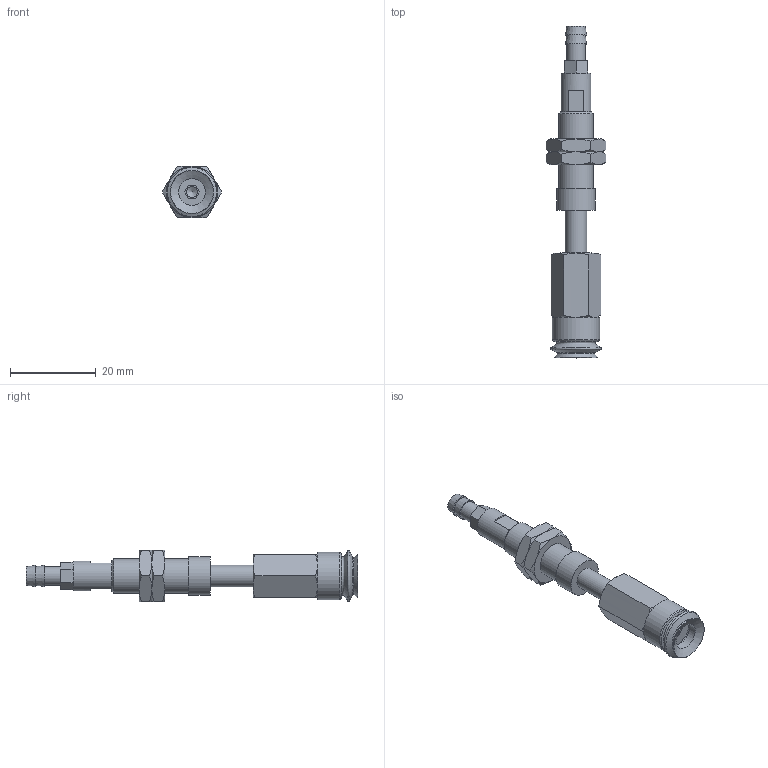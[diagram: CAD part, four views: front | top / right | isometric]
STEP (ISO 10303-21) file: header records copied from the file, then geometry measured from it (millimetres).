
FILE_DESCRIPTION(('STEP AP203'),'1');
FILE_NAME('-T.stp','2025-08-27T07:27:12',(' '),(' '),'Spatial InterOp 3D',' ',' ');
FILE_SCHEMA(('CONFIG_CONTROL_DESIGN'));
Length unit declared in the file: millimetre
Products named in the file (8): BNABPJTS-10-10-※-T; ADAPTER; NAPCTS-10-10-MBODY; Adapter-10-NAPJ; NUT-NAPJ-10-10-s; NAPJTS-10-10-FBODY; BPJG-10-※; T
Assembly tree (8 placements, depth 2):
  BNABPJTS-10-10-※-T
    ADAPTER
    NAPCTS-10-10-MBODY
    Adapter-10-NAPJ
    NUT-NAPJ-10-10-s  x2
    NAPJTS-10-10-FBODY
    BPJG-10-※
    T
Bounding box: 13.86 x 77.5 x 12 mm (x, y, z)
Volume: 4211.6 mm3; surface area: 4858.2 mm2
Topology: 8 solids, 8 shells, 140 faces, 288 edges, 174 vertices
Faces by surface type: plane 60, cone 54, cylinder 19, torus 7
Full cylindrical faces by diameter (mm): 2.5 x1, 3 x1, 4.134 x2, 4.3 x1, 4.6 x1, 5 x4, 6.266 x1, 7 x1, 7.188 x2, 7.8 x1, 8 x2, 9 x1, 11 x1
Entity records: 3590 total; most frequent: CARTESIAN_POINT 947, DIRECTION 480, ORIENTED_EDGE 380, AXIS2_PLACEMENT_3D 212, EDGE_CURVE 190, EDGE_LOOP 178, FACE_OUTER_BOUND 142, VERTEX_POINT 139
